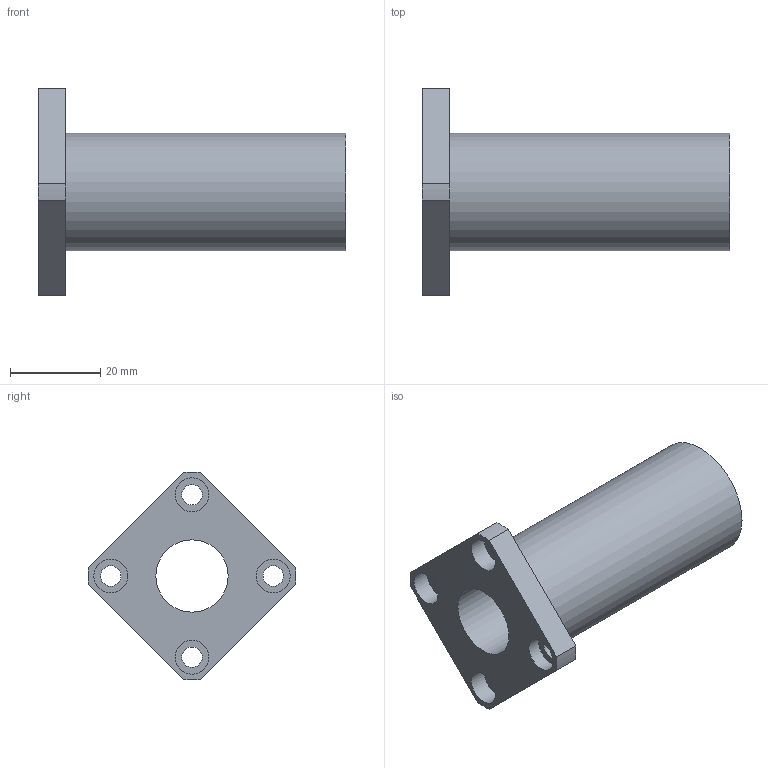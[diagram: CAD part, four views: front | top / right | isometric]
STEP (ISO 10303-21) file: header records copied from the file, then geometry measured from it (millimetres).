
FILE_DESCRIPTION( ( 'STEP AP203' ), '1' );
FILE_NAME( 'p:/temp/worker_6/temp/exporttempdir_1780_281_Y2V78/format_0/LMEK16LUU.stp', '2020-05-07T07:01:50', ( 'License CC BY-ND 4.0' ), ( 'CADENAS' ), ' ', 'PARTsolutions', ' ' );
FILE_SCHEMA( ( 'CONFIG_CONTROL_DESIGN' ) );
Length unit declared in the file: millimetre
Products named in the file (1): _LMEK16LUU
Bounding box: 68 x 45.98 x 45.98 mm (x, y, z)
Volume: 25702.9 mm3; surface area: 11666.1 mm2
Topology: 1 solids, 1 shells, 25 faces, 55 edges, 37 vertices
Faces by surface type: cylinder 14, plane 11
Full cylindrical faces by diameter (mm): 4.5 x4, 7.5 x4, 16 x1, 26 x1
Entity records: 710 total; most frequent: DIRECTION 124, CARTESIAN_POINT 106, ORIENTED_EDGE 88, AXIS2_PLACEMENT_3D 54, EDGE_LOOP 50, EDGE_CURVE 44, VERTEX_POINT 36, FACE_OUTER_BOUND 35
